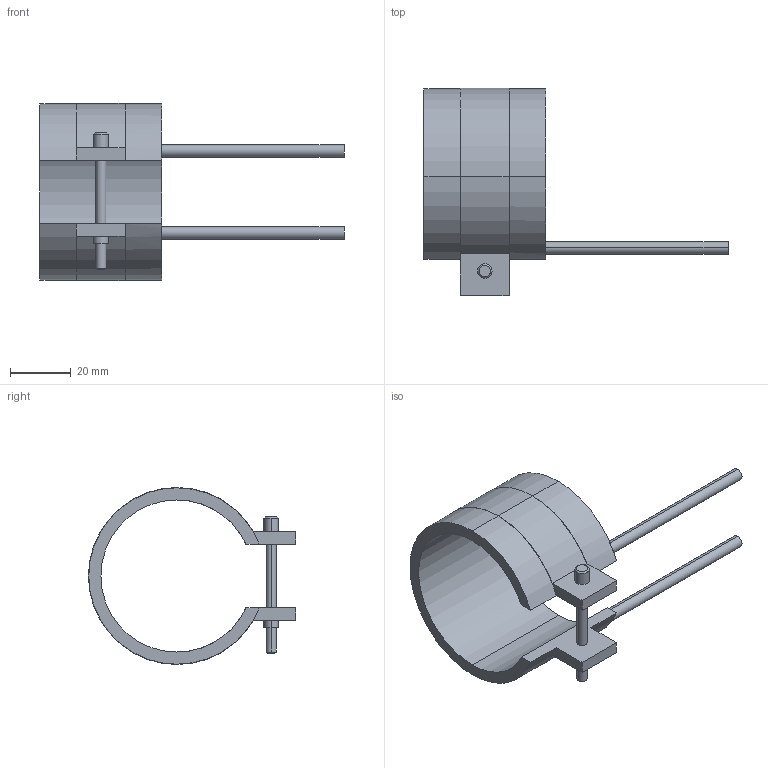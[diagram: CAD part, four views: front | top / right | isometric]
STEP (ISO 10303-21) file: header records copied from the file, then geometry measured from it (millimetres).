
FILE_DESCRIPTION(('CATIA V5 STEP Exchange'),'2;1');
FILE_NAME('C:\Users\Utente\Desktop\IO LAVORO\3D X SITO CF\X SITO\PLASTICA\RF2\14050040.stp','2021-03-31T11:52:52+00:00',('none'),('none'),'CATIA Version 5 Release 20 GA (IN-10)','CATIA V5 STEP AP203','none');
FILE_SCHEMA(('CONFIG_CONTROL_DESIGN'));
Length unit declared in the file: millimetre
Products named in the file (1): 14050040
Bounding box: 100 x 68.1 x 58.2 mm (x, y, z)
Volume: 27477.8 mm3; surface area: 16336.9 mm2
Topology: 1 solids, 1 shells, 45 faces, 116 edges, 76 vertices
Faces by surface type: cylinder 24, plane 17, cone 4
Entity records: 1400 total; most frequent: CARTESIAN_POINT 274, ORIENTED_EDGE 232, DIRECTION 196, EDGE_CURVE 116, AXIS2_PLACEMENT_3D 104, VERTEX_POINT 76, CIRCLE 62, VECTOR 52
